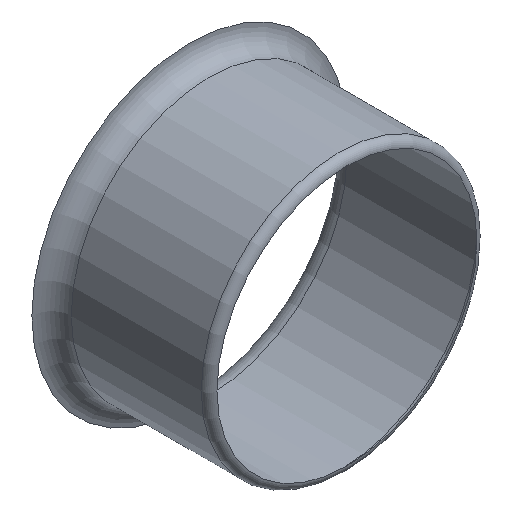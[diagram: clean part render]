
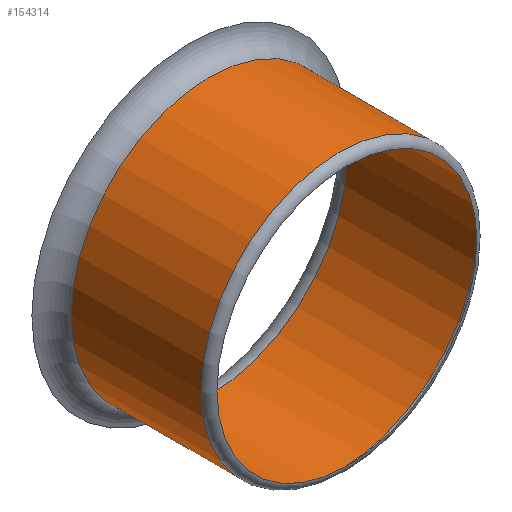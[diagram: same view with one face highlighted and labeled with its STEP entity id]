
A CAD part, isometric view. The second image highlights one B-rep face of the part: STEP entity #154314.
In plain terms, the highlighted cylindrical face has radius 3.5 mm (diameter 7 mm), a full revolution.
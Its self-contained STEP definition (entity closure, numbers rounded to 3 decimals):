
#9287=CYLINDRICAL_SURFACE('',#178880,3.5);
#20893=FACE_BOUND('',#41246,.T.);
#29486=FACE_OUTER_BOUND('',#41245,.T.);
#41245=EDGE_LOOP('',(#130302));
#41246=EDGE_LOOP('',(#130303));
#58142=CIRCLE('',#178879,3.5);
#58143=CIRCLE('',#178881,3.5);
#70563=VERTEX_POINT('',#312634);
#70564=VERTEX_POINT('',#312637);
#91029=EDGE_CURVE('',#70563,#70563,#58142,.T.);
#91030=EDGE_CURVE('',#70564,#70564,#58143,.T.);
#130302=ORIENTED_EDGE('',*,*,#91030,.F.);
#130303=ORIENTED_EDGE('',*,*,#91029,.F.);
#154314=ADVANCED_FACE('',(#29486,#20893),#9287,.F.);
#178879=AXIS2_PLACEMENT_3D('',#312635,#229026,#229027);
#178880=AXIS2_PLACEMENT_3D('',#312636,#229028,#229029);
#178881=AXIS2_PLACEMENT_3D('',#312638,#229030,#229031);
#229026=DIRECTION('center_axis',(0.,1.,0.));
#229027=DIRECTION('ref_axis',(0.,0.,-1.));
#229028=DIRECTION('center_axis',(0.,-1.,0.));
#229029=DIRECTION('ref_axis',(0.,0.,-1.));
#229030=DIRECTION('center_axis',(0.,-1.,0.));
#229031=DIRECTION('ref_axis',(0.,0.,-1.));
#312634=CARTESIAN_POINT('',(12.728,18.2,-9.228));
#312635=CARTESIAN_POINT('Origin',(12.728,18.2,-12.728));
#312636=CARTESIAN_POINT('Origin',(12.728,22.,-12.728));
#312637=CARTESIAN_POINT('',(12.728,21.5,-9.228));
#312638=CARTESIAN_POINT('Origin',(12.728,21.5,-12.728));
